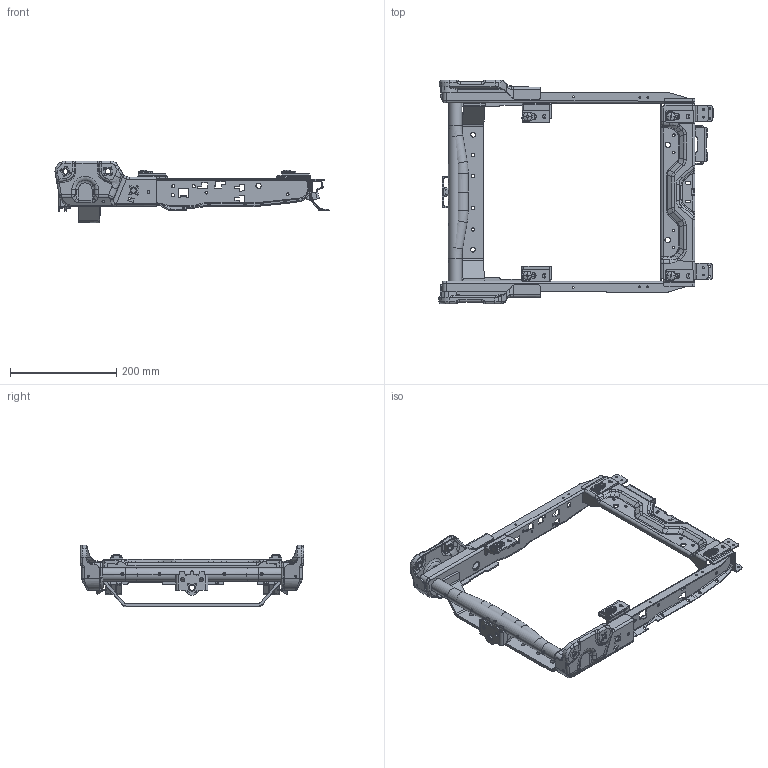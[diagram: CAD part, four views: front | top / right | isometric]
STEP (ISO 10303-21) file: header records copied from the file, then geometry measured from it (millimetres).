
FILE_DESCRIPTION(('CATIA V5 STEP Exchange'),'2;1');
FILE_NAME('C:\Users\Administrator\Desktop\储物盒座框-安全带卷轴期前移12mm-样件数据-20231222.stp','2023-12-22T06:02:11+00:00',('none'),('none'),'CATIA Version 5 Release 20 GA (IN-10)','CATIA V5 STEP AP214','none');
FILE_SCHEMA(('AUTOMOTIVE_DESIGN { 1 0 10303 214 1 1 1 1 }'));
Length unit declared in the file: millimetre
Products named in the file (24): SHT0016442; H5-6801110; BFA0010096; SHT0016444; SHT0015956; SHT0012268; Q37110; H4B-6805326; SHT0012266; SHT0012269; SHT0012267; H4B-6805319; SQX3000-6805318; SHT0015938; SHT0015924; BFA0000400; SHT0014563; SHT0014565; SHT0014594; Q37106; SHT0015145; SQX3000-6805319; SQX3000-6805317; SHT0014606_2.1C-VDC_AllCATPart
Assembly tree (35 placements, depth 4):
  SHT0016442
    H5-6801110  x4
    BFA0010096  x4
    SHT0016444
      SHT0015956
      SHT0012268
        Q37110  x2
        H4B-6805326
        SHT0012266
      SHT0012269
        SHT0012267
        Q37110  x2
        H4B-6805326
      H4B-6805319
      SQX3000-6805318  x2
      SHT0015938
        SHT0015924
        BFA0000400
      SHT0014563
      SHT0014565
      SHT0014594  x2
      Q37106
      SHT0015145
      SQX3000-6805319
      SQX3000-6805317
      SHT0014606_2.1C-VDC_AllCATPart
Bounding box: 514.94 x 420.17 x 116.24 mm (x, y, z)
Volume: 583456.5 mm3; surface area: 528849.8 mm2
Topology: 33 solids, 33 shells, 3096 faces, 8021 edges, 4950 vertices
Faces by surface type: cylinder 1368, plane 837, bspline 407, torus 252, sphere 74, cone 74, extrusion 72, revolution 12
Entity records: 118780 total; most frequent: CARTESIAN_POINT 67536, ORIENTED_EDGE 11948, DIRECTION 7615, EDGE_CURVE 5974, VERTEX_POINT 3730, AXIS2_PLACEMENT_3D 3237, VECTOR 2607, LINE 2547
